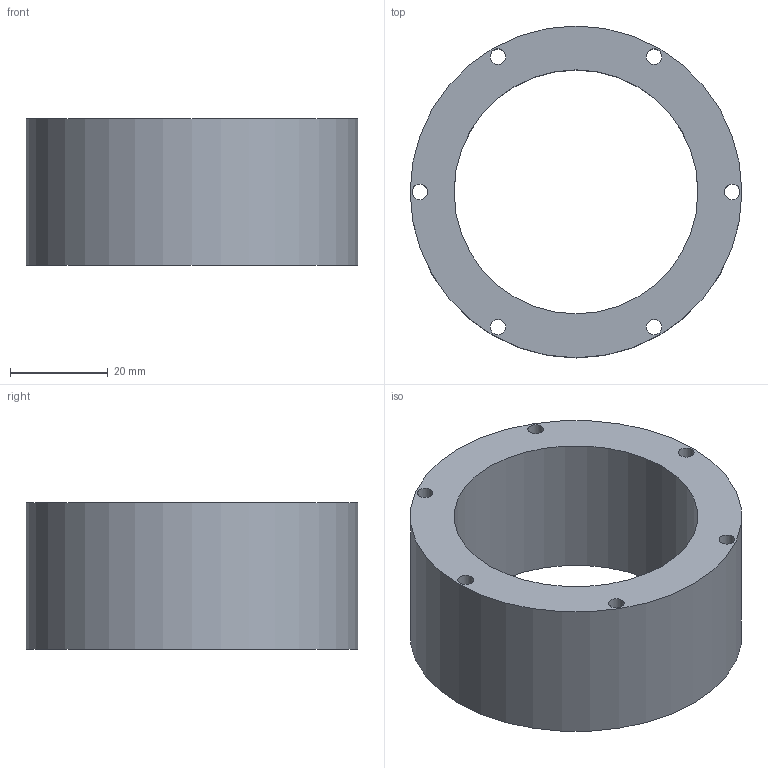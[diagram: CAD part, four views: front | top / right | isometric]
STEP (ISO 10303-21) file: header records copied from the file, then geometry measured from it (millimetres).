
FILE_DESCRIPTION(('Open CASCADE Model'),'2;1');
FILE_NAME('Open CASCADE Shape Model','2026-11-05T01:23:31',('Author'),( 'Open CASCADE'),'Open CASCADE STEP processor 7.8','Open CASCADE 7.8' ,'Unknown');
FILE_SCHEMA(('AUTOMOTIVE_DESIGN { 1 0 10303 214 1 1 1 1 }'));
Length unit declared in the file: millimetre
Products named in the file (1): Open CASCADE STEP translator 7.8 8
Bounding box: 68 x 68 x 30 mm (x, y, z)
Volume: 48597.9 mm3; surface area: 16170.7 mm2
Topology: 1 solids, 1 shells, 10 faces, 24 edges, 16 vertices
Faces by surface type: cylinder 8, plane 2
Full cylindrical faces by diameter (mm): 3.2 x6, 50 x1, 68 x1
Entity records: 660 total; most frequent: CARTESIAN_POINT 111, DIRECTION 108, ORIENTED_EDGE 48, PCURVE 48, DEFINITIONAL_REPRESENTATION 48, LINE 40, VECTOR 40, CIRCLE 30
